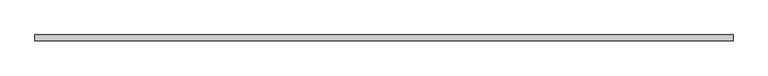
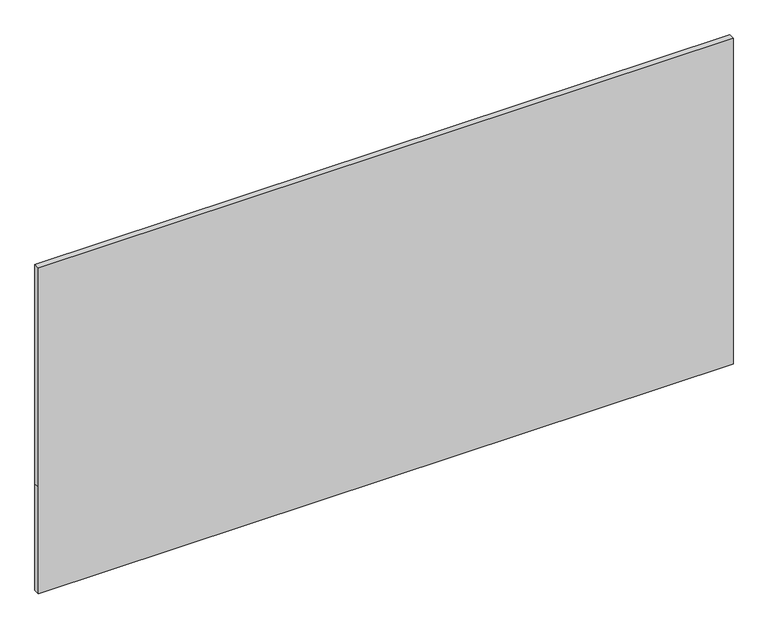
"""IFC4 building model written with IfcOpenShell, lengths in millimetres: plate geometry, Системная панель : С остеклением."""

from ifc_helpers import new_model, si_unit, frame, origin, place, context, project, spatial, polyline, outline, extrude, source, transform, mapped, element, save


def plate_c684aaee(model_context):
    return source(origin(), model_context, "Body", "SweptSolid", [
        extrude(outline(polyline([(0.0, -1462.5), (0.0, 1462.5), (475.0, 1462.5), (1450.0, 1462.5), (1450.0, -1462.5), (475.0, -1462.5), (0.0, -1462.5)])), frame((0.0, -49.5, 0.0), z_axis=(0.0, 1.0, 0.0), x_axis=(0.0, 0.0, 1.0)), (0.0, 0.0, 1.0), 25.0),
    ])


if __name__ == "__main__":
    model = new_model("IFC4")
    model_context = context("Model", 3, world=origin())
    ifc_project = project(units=[si_unit("LENGTHUNIT", "METRE", prefix="MILLI")], contexts=[model_context])
    site = spatial("IfcSite", under=ifc_project)
    building = spatial("IfcBuilding", under=site)
    placement = place(None, origin())
    plate_shape = plate_c684aaee(model_context)
    element("IfcPlate", 1, ObjectType="Системная панель : С остеклением", at=placement, inside=building, context=model_context, shape_type="MappedRepresentation", body=[
        mapped(plate_shape, transform((0.0, 0.0, 0.0), x_axis=(1.0, 0.0, 0.0), y_axis=(0.0, 1.0, 0.0), z_axis=(0.0, 0.0, 1.0))),
    ])
    save(model, "model.ifc")
